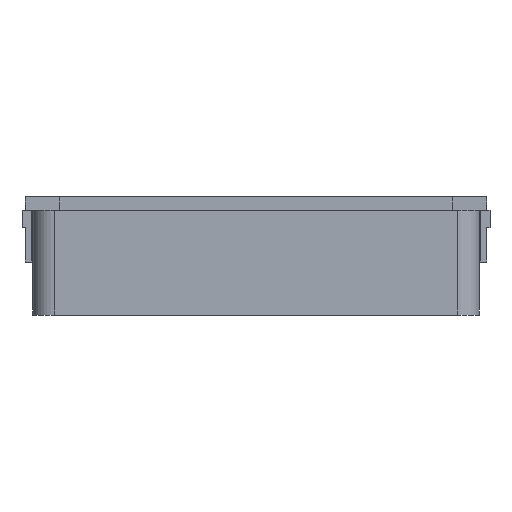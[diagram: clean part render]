
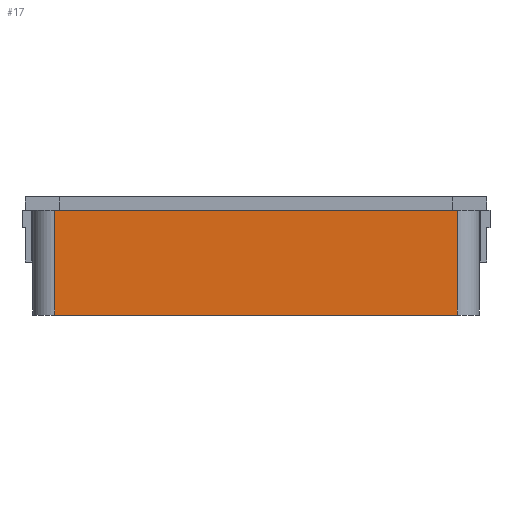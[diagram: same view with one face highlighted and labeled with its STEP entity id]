
A CAD part, left-side view. The second image highlights one B-rep face of the part: STEP entity #17.
In plain terms, the highlighted planar face has unit normal (-1, 0, 0).
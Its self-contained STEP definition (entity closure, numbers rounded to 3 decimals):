
#17 = ADVANCED_FACE('',(#18),#32,.T.);
#18 = FACE_BOUND('',#19,.T.);
#19 = EDGE_LOOP('',(#20,#55,#83,#111));
#20 = ORIENTED_EDGE('',*,*,#21,.T.);
#21 = EDGE_CURVE('',#22,#24,#26,.T.);
#22 = VERTEX_POINT('',#23);
#23 = CARTESIAN_POINT('',(-76.,-46.,-5.));
#24 = VERTEX_POINT('',#25);
#25 = CARTESIAN_POINT('',(-76.,-46.,19.));
#26 = SURFACE_CURVE('',#27,(#31,#43),.PCURVE_S1.);
#27 = LINE('',#28,#29);
#28 = CARTESIAN_POINT('',(-76.,-46.,-5.));
#29 = VECTOR('',#30,1.);
#30 = DIRECTION('',(0.,0.,1.));
#31 = PCURVE('',#32,#37);
#32 = PLANE('',#33);
#33 = AXIS2_PLACEMENT_3D('',#34,#35,#36);
#34 = CARTESIAN_POINT('',(-76.,-46.,-5.));
#35 = DIRECTION('',(-1.,0.,0.));
#36 = DIRECTION('',(0.,1.,0.));
#37 = DEFINITIONAL_REPRESENTATION('',(#38),#42);
#38 = LINE('',#39,#40);
#39 = CARTESIAN_POINT('',(0.,0.));
#40 = VECTOR('',#41,1.);
#41 = DIRECTION('',(0.,-1.));
#42 = ( GEOMETRIC_REPRESENTATION_CONTEXT(2) 
PARAMETRIC_REPRESENTATION_CONTEXT() REPRESENTATION_CONTEXT('2D SPACE',''
  ) );
#43 = PCURVE('',#44,#49);
#44 = CYLINDRICAL_SURFACE('',#45,5.);
#45 = AXIS2_PLACEMENT_3D('',#46,#47,#48);
#46 = CARTESIAN_POINT('',(-71.,-46.,-5.));
#47 = DIRECTION('',(0.,0.,-1.));
#48 = DIRECTION('',(-1.,0.,0.));
#49 = DEFINITIONAL_REPRESENTATION('',(#50),#54);
#50 = LINE('',#51,#52);
#51 = CARTESIAN_POINT('',(6.283,0.));
#52 = VECTOR('',#53,1.);
#53 = DIRECTION('',(0.,-1.));
#54 = ( GEOMETRIC_REPRESENTATION_CONTEXT(2) 
PARAMETRIC_REPRESENTATION_CONTEXT() REPRESENTATION_CONTEXT('2D SPACE',''
  ) );
#55 = ORIENTED_EDGE('',*,*,#56,.T.);
#56 = EDGE_CURVE('',#24,#57,#59,.T.);
#57 = VERTEX_POINT('',#58);
#58 = CARTESIAN_POINT('',(-76.,46.,19.));
#59 = SURFACE_CURVE('',#60,(#64,#71),.PCURVE_S1.);
#60 = LINE('',#61,#62);
#61 = CARTESIAN_POINT('',(-76.,0.,19.));
#62 = VECTOR('',#63,1.);
#63 = DIRECTION('',(0.,1.,0.));
#64 = PCURVE('',#32,#65);
#65 = DEFINITIONAL_REPRESENTATION('',(#66),#70);
#66 = LINE('',#67,#68);
#67 = CARTESIAN_POINT('',(46.,-24.));
#68 = VECTOR('',#69,1.);
#69 = DIRECTION('',(1.,0.));
#70 = ( GEOMETRIC_REPRESENTATION_CONTEXT(2) 
PARAMETRIC_REPRESENTATION_CONTEXT() REPRESENTATION_CONTEXT('2D SPACE',''
  ) );
#71 = PCURVE('',#72,#77);
#72 = PLANE('',#73);
#73 = AXIS2_PLACEMENT_3D('',#74,#75,#76);
#74 = CARTESIAN_POINT('',(0.,0.,19.));
#75 = DIRECTION('',(0.,0.,1.));
#76 = DIRECTION('',(1.,0.,-0.));
#77 = DEFINITIONAL_REPRESENTATION('',(#78),#82);
#78 = LINE('',#79,#80);
#79 = CARTESIAN_POINT('',(-76.,0.));
#80 = VECTOR('',#81,1.);
#81 = DIRECTION('',(0.,1.));
#82 = ( GEOMETRIC_REPRESENTATION_CONTEXT(2) 
PARAMETRIC_REPRESENTATION_CONTEXT() REPRESENTATION_CONTEXT('2D SPACE',''
  ) );
#83 = ORIENTED_EDGE('',*,*,#84,.F.);
#84 = EDGE_CURVE('',#85,#57,#87,.T.);
#85 = VERTEX_POINT('',#86);
#86 = CARTESIAN_POINT('',(-76.,46.,-5.));
#87 = SURFACE_CURVE('',#88,(#92,#99),.PCURVE_S1.);
#88 = LINE('',#89,#90);
#89 = CARTESIAN_POINT('',(-76.,46.,-5.));
#90 = VECTOR('',#91,1.);
#91 = DIRECTION('',(0.,0.,1.));
#92 = PCURVE('',#32,#93);
#93 = DEFINITIONAL_REPRESENTATION('',(#94),#98);
#94 = LINE('',#95,#96);
#95 = CARTESIAN_POINT('',(92.,0.));
#96 = VECTOR('',#97,1.);
#97 = DIRECTION('',(0.,-1.));
#98 = ( GEOMETRIC_REPRESENTATION_CONTEXT(2) 
PARAMETRIC_REPRESENTATION_CONTEXT() REPRESENTATION_CONTEXT('2D SPACE',''
  ) );
#99 = PCURVE('',#100,#105);
#100 = CYLINDRICAL_SURFACE('',#101,5.);
#101 = AXIS2_PLACEMENT_3D('',#102,#103,#104);
#102 = CARTESIAN_POINT('',(-71.,46.,-5.));
#103 = DIRECTION('',(0.,0.,-1.));
#104 = DIRECTION('',(-1.,0.,0.));
#105 = DEFINITIONAL_REPRESENTATION('',(#106),#110);
#106 = LINE('',#107,#108);
#107 = CARTESIAN_POINT('',(0.,0.));
#108 = VECTOR('',#109,1.);
#109 = DIRECTION('',(0.,-1.));
#110 = ( GEOMETRIC_REPRESENTATION_CONTEXT(2) 
PARAMETRIC_REPRESENTATION_CONTEXT() REPRESENTATION_CONTEXT('2D SPACE',''
  ) );
#111 = ORIENTED_EDGE('',*,*,#112,.F.);
#112 = EDGE_CURVE('',#22,#85,#113,.T.);
#113 = SURFACE_CURVE('',#114,(#118,#125),.PCURVE_S1.);
#114 = LINE('',#115,#116);
#115 = CARTESIAN_POINT('',(-76.,0.,-5.));
#116 = VECTOR('',#117,1.);
#117 = DIRECTION('',(0.,1.,0.));
#118 = PCURVE('',#32,#119);
#119 = DEFINITIONAL_REPRESENTATION('',(#120),#124);
#120 = LINE('',#121,#122);
#121 = CARTESIAN_POINT('',(46.,0.));
#122 = VECTOR('',#123,1.);
#123 = DIRECTION('',(1.,0.));
#124 = ( GEOMETRIC_REPRESENTATION_CONTEXT(2) 
PARAMETRIC_REPRESENTATION_CONTEXT() REPRESENTATION_CONTEXT('2D SPACE',''
  ) );
#125 = PCURVE('',#126,#131);
#126 = PLANE('',#127);
#127 = AXIS2_PLACEMENT_3D('',#128,#129,#130);
#128 = CARTESIAN_POINT('',(0.,0.,-5.));
#129 = DIRECTION('',(0.,0.,1.));
#130 = DIRECTION('',(1.,0.,-0.));
#131 = DEFINITIONAL_REPRESENTATION('',(#132),#136);
#132 = LINE('',#133,#134);
#133 = CARTESIAN_POINT('',(-76.,0.));
#134 = VECTOR('',#135,1.);
#135 = DIRECTION('',(0.,1.));
#136 = ( GEOMETRIC_REPRESENTATION_CONTEXT(2) 
PARAMETRIC_REPRESENTATION_CONTEXT() REPRESENTATION_CONTEXT('2D SPACE',''
  ) );
